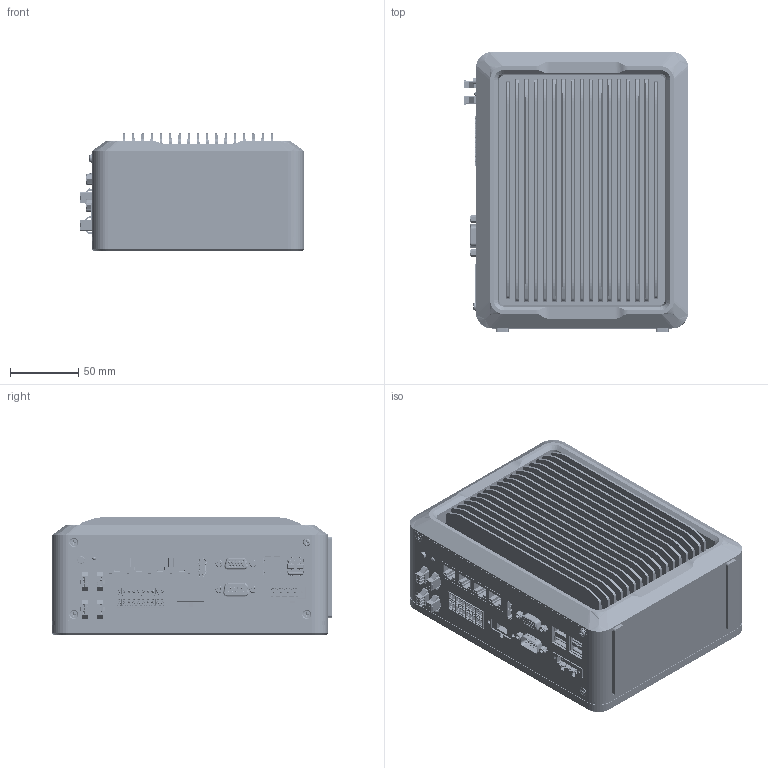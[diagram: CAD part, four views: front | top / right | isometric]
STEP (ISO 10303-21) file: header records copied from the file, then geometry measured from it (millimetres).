
FILE_DESCRIPTION((''),'2;1');
FILE_NAME('MV-VC2040-128GXX-XX','2022-11-10T10:20:24',('huguozhe'),(''),'CREO PARAMETRIC BY PTC INC, 2020044','CREO PARAMETRIC BY PTC INC, 2020044','');
FILE_SCHEMA(('AUTOMOTIVE_DESIGN { 1 0 10303 214 1 1 1 1 }'));
Products named in the file (1): MV-VC2040-128GXX-XX
Bounding box: 165.09 x 205.6 x 86 mm (x, y, z)
Volume: 479708.1 mm3; surface area: 396799.1 mm2
Topology: 11 solids, 135 shells, 11900 faces, 32575 edges, 20968 vertices
Faces by surface type: plane 8013, cylinder 2644, cone 581, bspline 257, extrusion 173, torus 127, sphere 105
Entity records: 461460 total; most frequent: CARTESIAN_POINT 116089, ORIENTED_EDGE 64426, DIRECTION 57865, EDGE_CURVE 32383, VECTOR 23531, LINE 23358, VERTEX_POINT 20968, AXIS2_PLACEMENT_3D 17167
